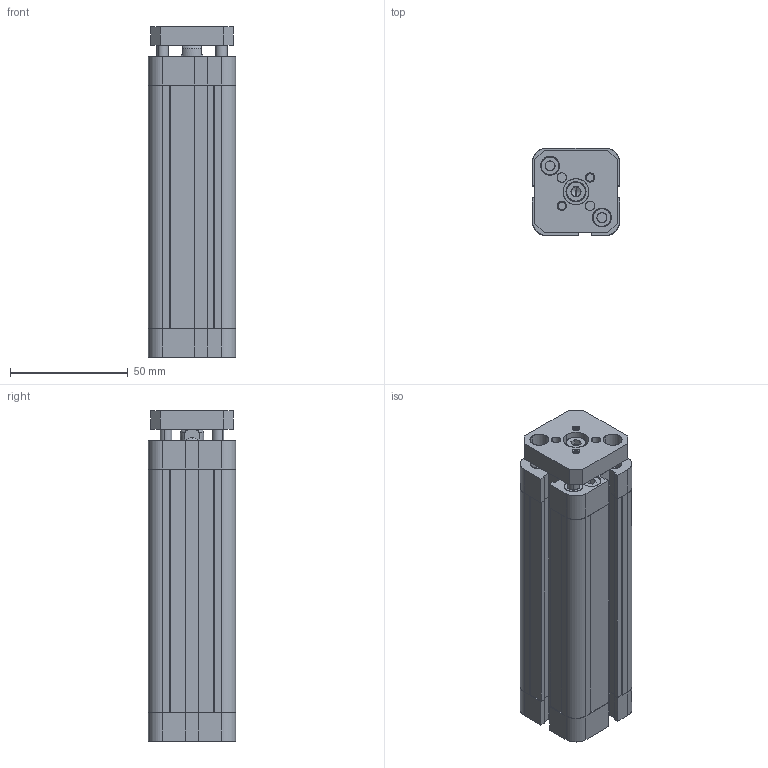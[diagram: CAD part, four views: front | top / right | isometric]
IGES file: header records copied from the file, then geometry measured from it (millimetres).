
Start section: SolidWorks IGES file using analytic representation for surfaces
Global section: file name: c:\CATALO3D\IGS\NSKU020.0090 F AR.IGS; native system: SolidWorks 2009; preprocessor: SolidWorks 2009; author: utente16; date: 100616.152445; units: millimetre
Bounding box: 37 x 37 x 140.5 mm (x, y, z)
Surface area: 59627.4 mm2 (no closed solid volume)
Topology: 0 solids, 0 shells, 667 faces, 13008 edges, 16224 vertices
Faces by surface type: revolution 345, bspline 322
